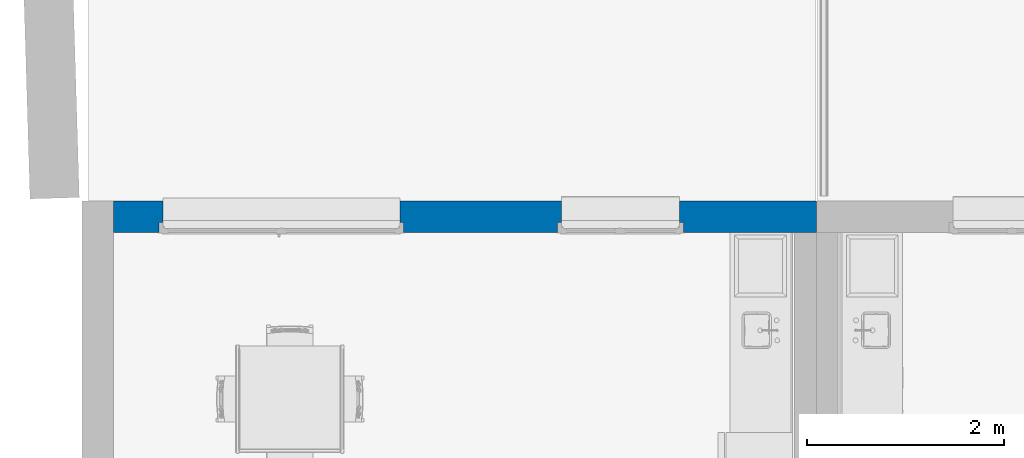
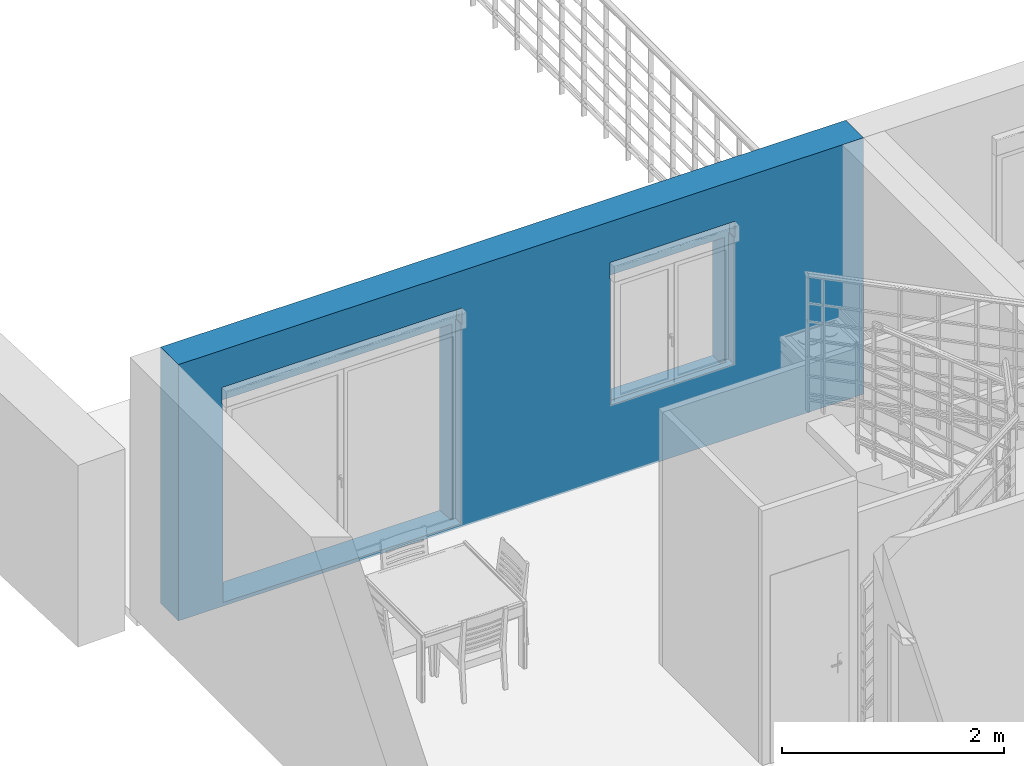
# One storey, part 10 of 33: 1 wall, 2 openings.
"""IFC2X3 building model written with IfcOpenShell, lengths in metres."""

import ifcopenshell
import ifcopenshell.guid

model = None  # the IFC model being written
_history = None  # IfcOwnerHistory: only IFC2X3 demands one
_inside = {}  # id of a spatial element -> (the spatial element, [elements in it])
_under = {}  # id of a project, library or spatial element -> (it, [spatial elements below it])
_declared = {}  # id of a project -> (the project, [libraries it declares])
_typed = {}  # id of a type object -> (the type object, [elements of that type])
_made_of = {}  # id of a material, layer set ... -> (it, [elements and type objects made of it])


def new_model(schema):
    """Start an empty IFC model of exactly this schema.

    Asked for "IFC4X3", IfcOpenShell would pick the latest addendum, in which some entities
    have other attributes; the version numbers below select the first issue.
    IFC2X3 requires an IfcOwnerHistory on every rooted entity: one is made here for all.
    """
    global model, _history
    if schema == "IFC4X3":
        model = ifcopenshell.file(schema_version=(4, 3, 0, 0))
    else:
        model = ifcopenshell.file(schema=schema)
    _inside.clear()
    _under.clear()
    _declared.clear()
    _typed.clear()
    _made_of.clear()
    _history = None
    if model.schema == "IFC2X3":
        org = make("IfcOrganization", Name="unknown")
        user = make(
            "IfcPersonAndOrganization",
            ThePerson=make("IfcPerson", FamilyName="unknown"),
            TheOrganization=org,
        )
        app = make(
            "IfcApplication",
            ApplicationDeveloper=org,
            Version="unknown",
            ApplicationFullName="unknown",
            ApplicationIdentifier="unknown",
        )
        _history = make(
            "IfcOwnerHistory",
            OwningUser=user,
            OwningApplication=app,
            ChangeAction="ADDED",
            CreationDate=0,
        )
    return model


def make(cls, **values):
    """One entity of the class cls with the attributes given. An attribute that is None is left unset."""
    return model.create_entity(
        cls, **{name: value for name, value in values.items() if value is not None}
    )


def entity(cls, *values):
    """Any entity or typed value of the class cls, its attributes in the order of the schema. None: left unset."""
    e = model.create_entity(cls)
    for i, value in enumerate(values):
        if value is not None:
            e[i] = value
    return e


def rooted(cls, **values):
    """An entity with a GlobalId (a new one), such as an element, a storey or a relation."""
    return make(cls, GlobalId=ifcopenshell.guid.new(), OwnerHistory=_history, **values)


def si_unit(unit_type, name, prefix=None):
    """IfcSIUnit, for example si_unit("LENGTHUNIT", "METRE", prefix="MILLI")."""
    return make("IfcSIUnit", UnitType=unit_type, Prefix=prefix, Name=name)


def converted_unit(unit_type, name, factor, base, dimensions=None, offset=None):
    """IfcConversionBasedUnit, such as the inch: factor (a typed value) times the base unit."""
    return make(
        "IfcConversionBasedUnit"
        if offset is None
        else "IfcConversionBasedUnitWithOffset",
        ConversionOffset=offset,
        Dimensions=None
        if dimensions is None
        else entity("IfcDimensionalExponents", *dimensions),
        UnitType=unit_type,
        Name=name,
        ConversionFactor=make(
            "IfcMeasureWithUnit", ValueComponent=factor, UnitComponent=base
        ),
    )


def derived_unit(unit_type, elements):
    """IfcDerivedUnit: a product of units, each with its exponent."""
    return make(
        "IfcDerivedUnit",
        Elements=[
            make("IfcDerivedUnitElement", Unit=unit, Exponent=power)
            for unit, power in elements
        ],
        UnitType=unit_type,
    )


def assignment(units):
    """IfcUnitAssignment: the units of a project."""
    return None if units is None else make("IfcUnitAssignment", Units=units)


def point(xyz):
    """IfcCartesianPoint."""
    return None if xyz is None else make("IfcCartesianPoint", Coordinates=xyz)


def direction(xyz):
    """IfcDirection."""
    return None if xyz is None else make("IfcDirection", DirectionRatios=xyz)


def frame(location, z_axis=None, x_axis=None):
    """IfcAxis2Placement3D, a coordinate frame: its origin and axes. An axis left out is left unset."""
    return make(
        "IfcAxis2Placement3D",
        Location=point(location),
        Axis=direction(z_axis),
        RefDirection=direction(x_axis),
    )


def frame_2d(location, x_axis=None):
    """IfcAxis2Placement2D, a coordinate frame in the plane: its origin and x axis."""
    return make(
        "IfcAxis2Placement2D", Location=point(location), RefDirection=direction(x_axis)
    )


def origin():
    """The frame at (0, 0, 0) with its axes left unset."""
    return frame((0.0, 0.0, 0.0))


def place(relative_to, where):
    """IfcLocalPlacement: puts the frame where relative to a parent placement (None: the world)."""
    return make(
        "IfcLocalPlacement", PlacementRelTo=relative_to, RelativePlacement=where
    )


def context(
    kind, dimensions, precision=None, world=None, true_north=None, identifier=None
):
    """IfcGeometricRepresentationContext, for example the 3D "Model" context."""
    return make(
        "IfcGeometricRepresentationContext",
        ContextIdentifier=identifier,
        ContextType=kind,
        CoordinateSpaceDimension=dimensions,
        Precision=precision,
        WorldCoordinateSystem=world,
        TrueNorth=true_north,
    )


def subcontext(parent, identifier, kind, view, scale=None):
    """IfcGeometricRepresentationSubContext, for example "Body" below "Model"."""
    return make(
        "IfcGeometricRepresentationSubContext",
        ContextIdentifier=identifier,
        ContextType=kind,
        ParentContext=parent,
        TargetScale=scale,
        TargetView=view,
    )


def project(units=None, contexts=None):
    """IfcProject with its units and contexts."""
    return rooted(
        "IfcProject",
        Name="project",
        RepresentationContexts=contexts,
        UnitsInContext=assignment(units),
    )


def spatial(cls, under=None, at=None, **own):
    """A site, building, storey or space (cls), placed at a placement, below another one or the project."""
    s = rooted(cls, ObjectPlacement=at, **own)
    if under is not None:
        _under.setdefault(under.id(), (under, []))[1].append(s)
    return s


def profile(cls, at=None, kind="AREA", **sizes):
    """A parametric profile (cls). Its sizes go by their IFC names, for example OverallWidth=200.0."""
    return make(cls, ProfileType=kind, Position=at, **sizes)


def rectangle(**sizes):
    """IfcRectangleProfileDef."""
    return profile("IfcRectangleProfileDef", **sizes)


def extrude(swept, where, along, depth):
    """IfcExtrudedAreaSolid: the profile swept, set in the frame where, extruded along a direction by depth."""
    return make(
        "IfcExtrudedAreaSolid",
        SweptArea=swept,
        Position=where,
        ExtrudedDirection=direction(along),
        Depth=depth,
    )


def faces_of(points, faces, orient=None, outer=None):
    """IfcFace entities. A face is a list of loops; a loop is a list of indices into points, from 0.

    orient and outer hold one flag for each loop. By default every Orientation is true, the
    first loop of a face is its IfcFaceOuterBound and the others are IfcFaceBound.
    """
    made = []
    for i, loops in enumerate(faces):
        bounds = []
        for j, loop in enumerate(loops):
            is_outer = j == 0 if outer is None else outer[i][j]
            bounds.append(
                make(
                    "IfcFaceOuterBound" if is_outer else "IfcFaceBound",
                    Bound=make("IfcPolyLoop", Polygon=[points[k] for k in loop]),
                    Orientation=True if orient is None else orient[i][j],
                )
            )
        made.append(make("IfcFace", Bounds=bounds))
    return made


def faceted_brep(points, faces, orient=None, outer=None, voids=None):
    """IfcFacetedBrep: a solid bounded by flat faces; with voids (closed shells), ...WithVoids."""
    shared = [point(p) for p in points]
    hull = make("IfcClosedShell", CfsFaces=faces_of(shared, faces, orient, outer))
    if voids is None:
        return make("IfcFacetedBrep", Outer=hull)
    return make(
        "IfcFacetedBrepWithVoids",
        Outer=hull,
        Voids=[
            make(cls, CfsFaces=faces_of(shared, fs, o, b)) for cls, fs, o, b in voids
        ],
    )


def shape(context_of_items, identifier, shape_type, items):
    """IfcShapeRepresentation: the items that make up one representation, for example the "Body"."""
    return make(
        "IfcShapeRepresentation",
        ContextOfItems=context_of_items,
        RepresentationIdentifier=identifier,
        RepresentationType=shape_type,
        Items=items,
    )


def material(Name=None, Category=None):
    """IfcMaterial."""
    return make("IfcMaterial", Name=Name, Category=Category)


def layer(
    of_material, thickness, ventilated=None, Name=None, Category=None, Priority=None
):
    """IfcMaterialLayer: one layer of a wall or slab, of a material (None: an air gap)."""
    return make(
        "IfcMaterialLayer",
        Material=of_material,
        LayerThickness=thickness,
        IsVentilated=ventilated,
        Name=Name,
        Category=Category,
        Priority=Priority,
    )


def layer_set(layers, Name=None):
    """IfcMaterialLayerSet."""
    return make("IfcMaterialLayerSet", MaterialLayers=layers, LayerSetName=Name)


def layer_usage(for_layer_set, set_direction, sense, offset, extent=None):
    """IfcMaterialLayerSetUsage: how a layer set lies in its element."""
    return make(
        "IfcMaterialLayerSetUsage",
        ForLayerSet=for_layer_set,
        LayerSetDirection=set_direction,
        DirectionSense=sense,
        OffsetFromReferenceLine=offset,
        ReferenceExtent=extent,
    )


def made_of(thing, what):
    """Note that an element or type object is made of a material, layer set ...; save() writes the relation."""
    if what is not None:
        _made_of.setdefault(what.id(), (what, []))[1].append(thing)
    return thing


def type_object(cls, material=None, **own):
    """A type object (cls), such as IfcWallType, which elements share."""
    return made_of(rooted(cls, **own), material)


def element(
    cls,
    number,
    at=None,
    inside=None,
    cuts=None,
    type_object=None,
    material=None,
    context=None,
    identifier="Body",
    shape_type=None,
    held_by="IfcProductDefinitionShape",
    body=None,
    shapes=None,
    **own,
):
    """One element of the class cls, such as IfcWall. Its Tag is "e" and its number.

    at: its placement. inside: the storey or other place that contains it. cuts: it is an
    opening in that element (IfcRelVoidsElement). A single representation is given by context,
    identifier, shape_type and body (its items); several are given by shapes. held_by: the class
    of the entity that holds the representations. save() writes the other relations.
    """
    e = rooted(cls, Tag="e%d" % number, ObjectPlacement=at, **own)
    if body is not None:
        shapes = [shape(context, identifier, shape_type, body)]
    if shapes is not None:
        e.Representation = make(held_by, Representations=shapes)
    if inside is not None:
        _inside.setdefault(inside.id(), (inside, []))[1].append(e)
    if cuts is not None:
        rooted(
            "IfcRelVoidsElement", RelatingBuildingElement=cuts, RelatedOpeningElement=e
        )
    if type_object is not None:
        _typed.setdefault(type_object.id(), (type_object, []))[1].append(e)
    return made_of(e, material)


def aggregate(whole, parts):
    """IfcRelAggregates: a whole, such as a stair, and the parts it consists of."""
    return rooted("IfcRelAggregates", RelatingObject=whole, RelatedObjects=parts)


def save(model, path):
    """Write the relations noted so far, then the file.

    IfcRelAggregates (storeys below a building ...), IfcRelContainedInSpatialStructure (elements
    in a storey), IfcRelDefinesByType, IfcRelAssociatesMaterial and IfcRelDeclares: one each for
    every whole, place, type object, material and project.
    """
    for whole, parts in _under.values():
        aggregate(whole, parts)
    for where, things in _inside.values():
        rooted(
            "IfcRelContainedInSpatialStructure",
            RelatedElements=things,
            RelatingStructure=where,
        )
    for kind, things in _typed.values():
        rooted("IfcRelDefinesByType", RelatedObjects=things, RelatingType=kind)
    for what, things in _made_of.values():
        rooted("IfcRelAssociatesMaterial", RelatedObjects=things, RelatingMaterial=what)
    for by, libraries in _declared.values():
        rooted("IfcRelDeclares", RelatingContext=by, RelatedDefinitions=libraries)
    model.write(path)


model = new_model("IFC2X3")

# Units and contexts
model_context = context("Model", 3, precision=1e-05, world=origin(), true_north=direction((6.12303176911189e-17, 1.0)))
context_of_model = context(None, 3, precision=1e-05, world=origin(), true_north=direction((6.12303176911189e-17, 1.0)))
body_context = subcontext(model_context, "Body", "Model", "MODEL_VIEW")
ifc_project = project(units=[si_unit("LENGTHUNIT", "METRE"), si_unit("AREAUNIT", "SQUARE_METRE"), si_unit("VOLUMEUNIT", "CUBIC_METRE"), converted_unit("PLANEANGLEUNIT", "DEGREE", entity("IfcRatioMeasure", 0.0174532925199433), si_unit("PLANEANGLEUNIT", "RADIAN"), dimensions=[0, 0, 0, 0, 0, 0, 0]), si_unit("MASSUNIT", "GRAM", prefix="KILO"), si_unit("TIMEUNIT", "SECOND"), si_unit("FREQUENCYUNIT", "HERTZ"), si_unit("THERMODYNAMICTEMPERATUREUNIT", "DEGREE_CELSIUS"), derived_unit("THERMALTRANSMITTANCEUNIT", [(si_unit("MASSUNIT", "GRAM", prefix="KILO"), 1), (si_unit("THERMODYNAMICTEMPERATUREUNIT", "KELVIN"), -1), (si_unit("TIMEUNIT", "SECOND"), -3)]), derived_unit("VOLUMETRICFLOWRATEUNIT", [(si_unit("LENGTHUNIT", "METRE"), 3), (si_unit("TIMEUNIT", "SECOND"), -1)]), si_unit("ELECTRICCURRENTUNIT", "AMPERE"), si_unit("ELECTRICVOLTAGEUNIT", "VOLT"), si_unit("POWERUNIT", "WATT"), si_unit("FORCEUNIT", "NEWTON", prefix="KILO"), si_unit("ILLUMINANCEUNIT", "LUX"), si_unit("LUMINOUSFLUXUNIT", "LUMEN"), si_unit("LUMINOUSINTENSITYUNIT", "CANDELA"), si_unit("PRESSUREUNIT", "PASCAL")], contexts=[model_context, context_of_model])

# Site, building, storey
site_placement = place(None, origin())
site = spatial("IfcSite", under=ifc_project, at=site_placement, Name="Surface", CompositionType="ELEMENT")
building_placement = place(site_placement, origin())
building = spatial("IfcBuilding", under=site, at=building_placement, CompositionType="ELEMENT")
storey_placement = place(building_placement, origin())
storey = spatial("IfcBuildingStorey", under=building, at=storey_placement, Name="Plan des fondations  Maisons 1 et 2", CompositionType="ELEMENT", Elevation=0.0)

# Wall, openings
ifc_material_1 = material(Name="Enduit blanc cassé2")
ifc_layer_1 = layer(ifc_material_1, 0.02)
ifc_material_2 = material(Name="Parpaing")
ifc_layer_2 = layer(ifc_material_2, 0.2)
ifc_material_3 = material(Name="Isolant")
ifc_layer_3 = layer(ifc_material_3, 0.1)
ifc_layer_set = layer_set([ifc_layer_1, ifc_layer_2, ifc_layer_3], Name="Mur de base:Ext. Parpaing 20 + Isolant 10 enduit blanc cassé")
ifc_layer_usage = layer_usage(ifc_layer_set, "AXIS2", "NEGATIVE", 0.16)
wall_type = type_object("IfcWallType", Name="Mur de base:Ext. Parpaing 20 + Isolant 10 enduit blanc cassé", PredefinedType="STANDARD", material=ifc_layer_set)
wall_placement = place(storey_placement, frame((61.7063634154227, 88.2677566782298, 0.0)))
wall = element("IfcWallStandardCase", 1, at=wall_placement, inside=storey, type_object=wall_type, material=ifc_layer_usage, Name="Mur de base:Ext. Parpaing 20 + Isolant 10 enduit blanc cassé", ObjectType="Mur de base:Ext. Parpaing 20 + Isolant 10 enduit blanc cassé", context=body_context, shape_type="SweptSolid", body=[
    extrude(rectangle(XDim=7.1282629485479, YDim=0.319999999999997, at=frame_2d((3.56413147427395, 2.52575738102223e-15), x_axis=(-1.0, 0.0))), origin(), (0.0, 0.0, 1.0), 2.82),
])
opening_1_placement = place(wall_placement, frame((4.49220465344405, -0.499999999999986, 0.719999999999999)))
element("IfcOpeningElement", 2, at=opening_1_placement, cuts=wall, Name="Mur de base:Ext. Parpaing 20 + Isolant 10 enduit blanc cassé", ObjectType="Opening", context=body_context, shape_type="Brep", body=[
    faceted_brep([(0.050000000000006, 0.0, 1.43), (0.050000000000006, 0.0, 0.0799999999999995), (1.25, 0.0, 0.0799999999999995), (1.25, 0.0, 1.43), (0.0499999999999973, 1.0, 1.43), (1.24999999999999, 1.0, 1.43), (1.24999999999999, 1.0, 0.0799999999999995), (0.0499999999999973, 1.0, 0.0799999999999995), (1.25, 0.327000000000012, 1.43), (0.0499999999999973, 0.32700000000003, 1.43), (1.25, 0.327000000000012, 0.0799999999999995), (0.0499999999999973, 0.32700000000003, 0.0799999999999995), (0.00999999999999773, 0.327000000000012, 0.0799999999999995), (0.00999999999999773, 0.440000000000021, 0.0799999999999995), (0.0499999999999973, 0.440000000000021, 0.0799999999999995), (0.0499999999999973, 0.405000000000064, 0.0799999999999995), (1.25, 0.405000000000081, 0.0799999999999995), (1.25, 0.440000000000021, 0.0799999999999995), (1.28999999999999, 0.440000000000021, 0.0799999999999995), (1.28999999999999, 0.327000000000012, 0.0799999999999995), (1.29, 0.32700000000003, 1.47), (0.0100000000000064, 0.32700000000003, 1.47), (1.29, 0.440000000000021, 1.47), (1.25, 0.440000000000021, 1.43), (0.0499999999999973, 0.440000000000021, 1.43), (0.0100000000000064, 0.440000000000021, 1.47), (0.0, 0.440000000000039, 1.47), (0.0, 0.440000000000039, 1.65), (1.3, 0.440000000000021, 1.65), (1.3, 0.440000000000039, 1.47), (1.3, 0.307000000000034, 1.65), (1.3, 0.307000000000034, 1.47), (0.0, 0.307000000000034, 1.65), (0.0, 0.307000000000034, 1.47), (1.25, 0.440000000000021, 0.0), (1.25, 0.405000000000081, 0.034999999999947), (0.050000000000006, 0.405000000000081, 0.0349999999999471), (0.0499999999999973, 0.440000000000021, 0.0), (1.24999999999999, 0.705000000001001, 0.0799999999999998), (1.24999999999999, 0.705000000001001, 0.0), (0.050000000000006, 0.705000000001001, 0.0), (0.0499999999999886, 0.705000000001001, 0.0799999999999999)], [[[0, 1, 2, 3]], [[4, 5, 6, 7]], [[0, 3, 8, 9]], [[3, 2, 10, 8]], [[2, 1, 11, 12, 13, 14, 15, 16, 17, 18, 19, 10]], [[1, 0, 9, 11]], [[10, 19, 20, 21, 12, 11, 9, 8]], [[19, 18, 22, 20]], [[18, 17, 23, 24, 14, 13, 25, 26, 27, 28, 29, 22]], [[12, 21, 25, 13]], [[30, 31, 29, 28]], [[32, 27, 26, 33]], [[30, 28, 27, 32]], [[29, 31, 33, 26, 25, 21, 20, 22]], [[31, 30, 32, 33]], [[34, 35, 36, 37]], [[35, 16, 15, 36]], [[38, 39, 40, 41]], [[39, 34, 37, 40]], [[4, 7, 41, 40, 37, 36, 15, 14, 24]], [[7, 6, 38, 41]], [[6, 5, 23, 17, 16, 35, 34, 39, 38]], [[5, 4, 24, 23]]]),
])
opening_2_placement = place(wall_placement, frame((0.453073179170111, -0.500000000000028, 0.006120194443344)))
element("IfcOpeningElement", 3, at=opening_2_placement, cuts=wall, Name="Mur de base:Ext. Parpaing 20 + Isolant 10 enduit blanc cassé", ObjectType="Opening", context=body_context, shape_type="Brep", body=[
    faceted_brep([(0.050000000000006, 0.0, 2.18387980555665), (0.050000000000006, 0.0, 0.0338798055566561), (2.45000000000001, 0.0, 0.0338798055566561), (2.45000000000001, 0.0, 2.18387980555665), (0.0499999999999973, 1.0, 2.18387980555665), (2.45, 1.0, 2.18387980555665), (2.45, 1.0, 0.0338798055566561), (0.0499999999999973, 1.0, 0.0338798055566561), (2.45000000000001, 0.32700000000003, 2.18387980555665), (0.050000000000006, 0.327000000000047, 2.18387980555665), (2.45000000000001, 0.32700000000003, 0.0338798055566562), (0.050000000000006, 0.327000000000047, 0.0338798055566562), (0.0100000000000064, 0.327000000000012, 0.0338798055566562), (0.0100000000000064, 0.440000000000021, 0.0338798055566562), (0.050000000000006, 0.440000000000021, 0.0338798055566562), (0.050000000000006, 0.438000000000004, 0.0338798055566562), (2.45, 0.438000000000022, 0.0338798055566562), (2.45, 0.440000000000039, 0.0338798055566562), (2.49, 0.440000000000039, 0.0338798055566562), (2.49, 0.32700000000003, 0.0338798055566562), (2.49, 0.327000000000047, 2.22387980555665), (0.00999999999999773, 0.32700000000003, 2.22387980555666), (2.49, 0.440000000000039, 2.22387980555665), (2.45000000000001, 0.440000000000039, 2.18387980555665), (0.0499999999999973, 0.440000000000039, 2.18387980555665), (0.00999999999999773, 0.440000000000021, 2.22387980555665), (0.0, 0.440000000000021, 2.22387980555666), (0.0, 0.440000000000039, 2.40387980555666), (2.49999999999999, 0.440000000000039, 2.40387980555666), (2.5, 0.440000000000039, 2.22387980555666), (2.5, 0.307000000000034, 2.40387980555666), (2.5, 0.307000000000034, 2.22387980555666), (0.0, 0.307000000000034, 2.40387980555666), (0.0, 0.307000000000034, 2.22387980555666), (2.45000000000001, 0.438000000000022, 0.0220471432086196), (0.050000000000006, 0.438000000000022, 0.0220471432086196), (2.45, 0.690000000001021, 0.0338798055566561), (2.45, 0.690000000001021, 0.0), (0.0499999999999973, 0.690000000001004, 0.0), (0.0499999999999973, 0.690000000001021, 0.0338798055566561)], [[[0, 1, 2, 3]], [[4, 5, 6, 7]], [[0, 3, 8, 9]], [[3, 2, 10, 8]], [[2, 1, 11, 12, 13, 14, 15, 16, 17, 18, 19, 10]], [[1, 0, 9, 11]], [[10, 19, 20, 21, 12, 11, 9, 8]], [[19, 18, 22, 20]], [[18, 17, 23, 24, 14, 13, 25, 26, 27, 28, 29, 22]], [[12, 21, 25, 13]], [[30, 31, 29, 28]], [[32, 27, 26, 33]], [[30, 28, 27, 32]], [[29, 31, 33, 26, 25, 21, 20, 22]], [[31, 30, 32, 33]], [[34, 16, 15, 35]], [[36, 37, 38, 39]], [[37, 34, 35, 38]], [[4, 7, 39, 38, 35, 15, 14, 24]], [[7, 6, 36, 39]], [[6, 5, 23, 17, 16, 34, 37, 36]], [[5, 4, 24, 23]]]),
])

save(model, "model.ifc")
